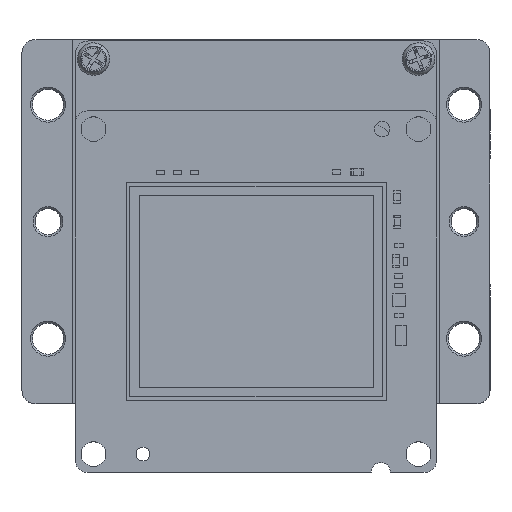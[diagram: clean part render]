
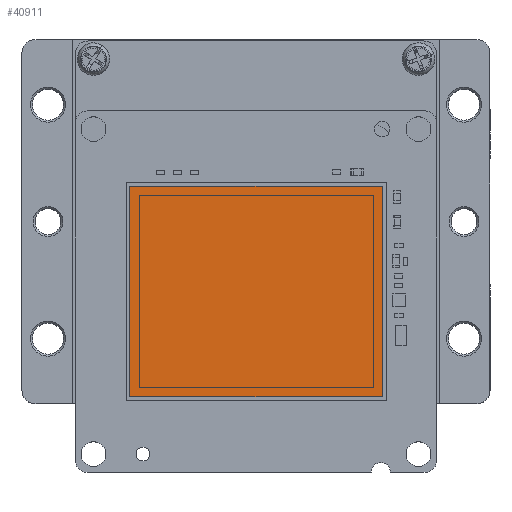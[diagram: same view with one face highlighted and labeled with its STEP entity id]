
A CAD part, top view. The second image highlights one B-rep face of the part: STEP entity #40911.
In plain terms, the highlighted planar face has unit normal (0, 0, 1).
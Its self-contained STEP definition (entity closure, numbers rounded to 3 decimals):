
#2171 = DIRECTION ( 'NONE',  ( 0., 0., 1. ) ) ;
#9384 = CARTESIAN_POINT ( 'NONE',  ( -9.7, 2.446, 154.49 ) ) ;
#13830 = EDGE_CURVE ( 'NONE', #98651, #126490, #22551, .T. ) ;
#16553 = LINE ( 'NONE', #171796, #50650 ) ;
#22383 = LINE ( 'NONE', #42098, #224089 ) ;
#22551 = LINE ( 'NONE', #67149, #194970 ) ;
#29059 = PLANE ( 'NONE',  #116914 ) ;
#40911 = ADVANCED_FACE ( 'NONE', ( #209170 ), #29059, .T. ) ;
#42098 = CARTESIAN_POINT ( 'NONE',  ( -9.7, -13.754, 154.49 ) ) ;
#43222 = CARTESIAN_POINT ( 'NONE',  ( -9.7, -13.754, 154.49 ) ) ;
#44704 = DIRECTION ( 'NONE',  ( 1., 0., 0. ) ) ;
#49322 = VECTOR ( 'NONE', #101064, 1000. ) ;
#50650 = VECTOR ( 'NONE', #132307, 1000. ) ;
#54680 = EDGE_CURVE ( 'NONE', #83220, #104540, #223348, .T. ) ;
#56151 = CARTESIAN_POINT ( 'NONE',  ( 9.7, 2.446, 154.49 ) ) ;
#63971 = DIRECTION ( 'NONE',  ( 1., 0., 0. ) ) ;
#67149 = CARTESIAN_POINT ( 'NONE',  ( 9.7, -13.754, 154.49 ) ) ;
#83220 = VERTEX_POINT ( 'NONE', #9384 ) ;
#88371 = ORIENTED_EDGE ( 'NONE', *, *, #188381, .T. ) ;
#89904 = EDGE_CURVE ( 'NONE', #126490, #83220, #16553, .T. ) ;
#98651 = VERTEX_POINT ( 'NONE', #207211 ) ;
#101064 = DIRECTION ( 'NONE',  ( 0., -1., 0. ) ) ;
#104540 = VERTEX_POINT ( 'NONE', #134972 ) ;
#107277 = ORIENTED_EDGE ( 'NONE', *, *, #13830, .T. ) ;
#109217 = CARTESIAN_POINT ( 'NONE',  ( 0., -5.654, 154.49 ) ) ;
#116914 = AXIS2_PLACEMENT_3D ( 'NONE', #109217, #2171, #63971 ) ;
#126490 = VERTEX_POINT ( 'NONE', #56151 ) ;
#132307 = DIRECTION ( 'NONE',  ( -1., 0., 0. ) ) ;
#134972 = CARTESIAN_POINT ( 'NONE',  ( -9.7, -13.754, 154.49 ) ) ;
#143599 = ORIENTED_EDGE ( 'NONE', *, *, #54680, .T. ) ;
#146679 = ORIENTED_EDGE ( 'NONE', *, *, #89904, .T. ) ;
#171796 = CARTESIAN_POINT ( 'NONE',  ( -9.7, 2.446, 154.49 ) ) ;
#188381 = EDGE_CURVE ( 'NONE', #104540, #98651, #22383, .T. ) ;
#194970 = VECTOR ( 'NONE', #228870, 1000. ) ;
#196252 = EDGE_LOOP ( 'NONE', ( #88371, #107277, #146679, #143599 ) ) ;
#207211 = CARTESIAN_POINT ( 'NONE',  ( 9.7, -13.754, 154.49 ) ) ;
#209170 = FACE_OUTER_BOUND ( 'NONE', #196252, .T. ) ;
#223348 = LINE ( 'NONE', #43222, #49322 ) ;
#224089 = VECTOR ( 'NONE', #44704, 1000. ) ;
#228870 = DIRECTION ( 'NONE',  ( 0., 1., 0. ) ) ;
